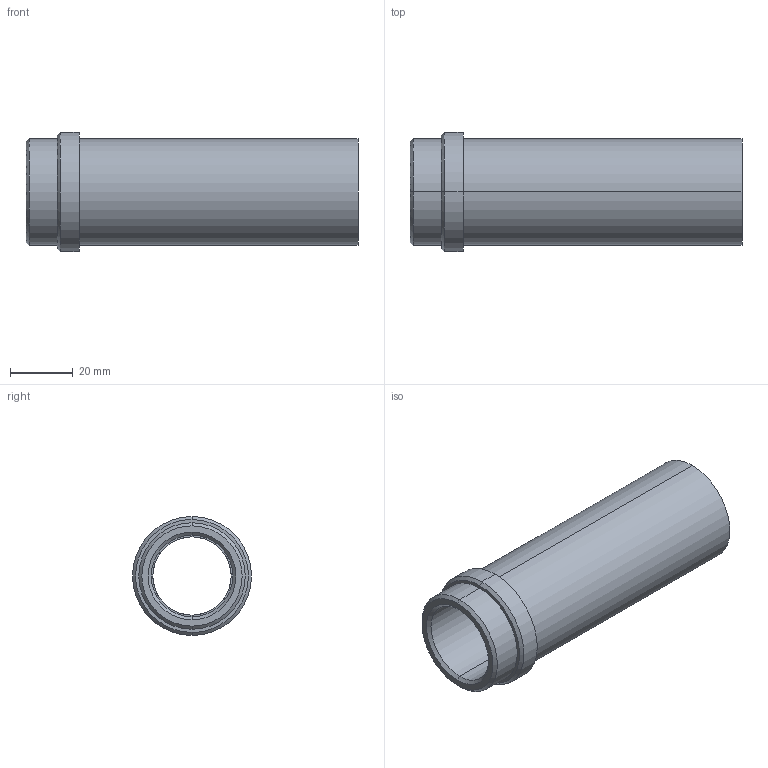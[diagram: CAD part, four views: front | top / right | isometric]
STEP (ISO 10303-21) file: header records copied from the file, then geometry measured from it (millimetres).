
FILE_DESCRIPTION(('CATIA V5 STEP Exchange'),'2;1');
FILE_NAME('C:\Users\Utente\Desktop\IO LAVORO\3D X SITO CF\X SITO\PLASTICA\358\358-25x106.stp','2021-04-09T13:17:57+00:00',('none'),('none'),'CATIA Version 5 Release 20 GA (IN-10)','CATIA V5 STEP AP203','none');
FILE_SCHEMA(('CONFIG_CONTROL_DESIGN'));
Length unit declared in the file: millimetre
Products named in the file (1): 358-25X106
Bounding box: 106 x 38 x 38 mm (x, y, z)
Volume: 43324.5 mm3; surface area: 20950.6 mm2
Topology: 1 solids, 1 shells, 23 faces, 74 edges, 56 vertices
Faces by surface type: cylinder 10, cone 6, plane 5, torus 2
Entity records: 1066 total; most frequent: CARTESIAN_POINT 378, ORIENTED_EDGE 148, DIRECTION 104, EDGE_CURVE 74, AXIS2_PLACEMENT_3D 66, VERTEX_POINT 56, CIRCLE 42, EDGE_LOOP 28
